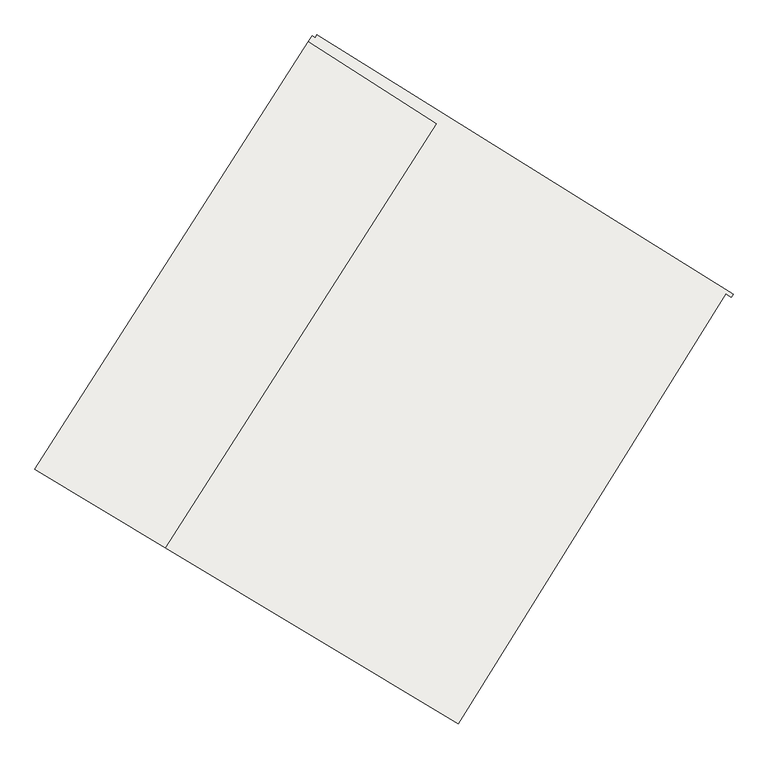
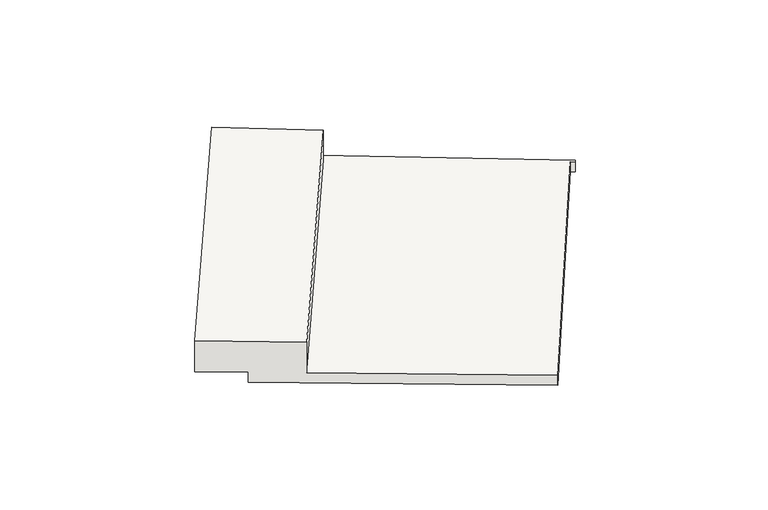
"""IFC4 building model written with IfcOpenShell, lengths in millimetres: slab geometry, Non-Monolitic_Landing."""

import ifcopenshell
import ifcopenshell.guid

model = None  # the IFC model being written
_history = None  # IfcOwnerHistory: only IFC2X3 demands one
_inside = {}  # id of a spatial element -> (the spatial element, [elements in it])
_under = {}  # id of a project, library or spatial element -> (it, [spatial elements below it])
_declared = {}  # id of a project -> (the project, [libraries it declares])
_typed = {}  # id of a type object -> (the type object, [elements of that type])
_made_of = {}  # id of a material, layer set ... -> (it, [elements and type objects made of it])


def new_model(schema):
    """Start an empty IFC model of exactly this schema.

    Asked for "IFC4X3", IfcOpenShell would pick the latest addendum, in which some entities
    have other attributes; the version numbers below select the first issue.
    IFC2X3 requires an IfcOwnerHistory on every rooted entity: one is made here for all.
    """
    global model, _history
    if schema == "IFC4X3":
        model = ifcopenshell.file(schema_version=(4, 3, 0, 0))
    else:
        model = ifcopenshell.file(schema=schema)
    _inside.clear()
    _under.clear()
    _declared.clear()
    _typed.clear()
    _made_of.clear()
    _history = None
    if model.schema == "IFC2X3":
        org = make("IfcOrganization", Name="unknown")
        user = make(
            "IfcPersonAndOrganization",
            ThePerson=make("IfcPerson", FamilyName="unknown"),
            TheOrganization=org,
        )
        app = make(
            "IfcApplication",
            ApplicationDeveloper=org,
            Version="unknown",
            ApplicationFullName="unknown",
            ApplicationIdentifier="unknown",
        )
        _history = make(
            "IfcOwnerHistory",
            OwningUser=user,
            OwningApplication=app,
            ChangeAction="ADDED",
            CreationDate=0,
        )
    return model


def make(cls, **values):
    """One entity of the class cls with the attributes given. An attribute that is None is left unset."""
    return model.create_entity(
        cls, **{name: value for name, value in values.items() if value is not None}
    )


def rooted(cls, **values):
    """An entity with a GlobalId (a new one), such as an element, a storey or a relation."""
    return make(cls, GlobalId=ifcopenshell.guid.new(), OwnerHistory=_history, **values)


def si_unit(unit_type, name, prefix=None):
    """IfcSIUnit, for example si_unit("LENGTHUNIT", "METRE", prefix="MILLI")."""
    return make("IfcSIUnit", UnitType=unit_type, Prefix=prefix, Name=name)


def assignment(units):
    """IfcUnitAssignment: the units of a project."""
    return None if units is None else make("IfcUnitAssignment", Units=units)


def point(xyz):
    """IfcCartesianPoint."""
    return None if xyz is None else make("IfcCartesianPoint", Coordinates=xyz)


def direction(xyz):
    """IfcDirection."""
    return None if xyz is None else make("IfcDirection", DirectionRatios=xyz)


def frame(location, z_axis=None, x_axis=None):
    """IfcAxis2Placement3D, a coordinate frame: its origin and axes. An axis left out is left unset."""
    return make(
        "IfcAxis2Placement3D",
        Location=point(location),
        Axis=direction(z_axis),
        RefDirection=direction(x_axis),
    )


def origin():
    """The frame at (0, 0, 0) with its axes left unset."""
    return frame((0.0, 0.0, 0.0))


def place(relative_to, where):
    """IfcLocalPlacement: puts the frame where relative to a parent placement (None: the world)."""
    return make(
        "IfcLocalPlacement", PlacementRelTo=relative_to, RelativePlacement=where
    )


def context(
    kind, dimensions, precision=None, world=None, true_north=None, identifier=None
):
    """IfcGeometricRepresentationContext, for example the 3D "Model" context."""
    return make(
        "IfcGeometricRepresentationContext",
        ContextIdentifier=identifier,
        ContextType=kind,
        CoordinateSpaceDimension=dimensions,
        Precision=precision,
        WorldCoordinateSystem=world,
        TrueNorth=true_north,
    )


def project(units=None, contexts=None):
    """IfcProject with its units and contexts."""
    return rooted(
        "IfcProject",
        Name="project",
        RepresentationContexts=contexts,
        UnitsInContext=assignment(units),
    )


def spatial(cls, under=None, at=None, **own):
    """A site, building, storey or space (cls), placed at a placement, below another one or the project."""
    s = rooted(cls, ObjectPlacement=at, **own)
    if under is not None:
        _under.setdefault(under.id(), (under, []))[1].append(s)
    return s


def faces_of(points, faces, orient=None, outer=None):
    """IfcFace entities. A face is a list of loops; a loop is a list of indices into points, from 0.

    orient and outer hold one flag for each loop. By default every Orientation is true, the
    first loop of a face is its IfcFaceOuterBound and the others are IfcFaceBound.
    """
    made = []
    for i, loops in enumerate(faces):
        bounds = []
        for j, loop in enumerate(loops):
            is_outer = j == 0 if outer is None else outer[i][j]
            bounds.append(
                make(
                    "IfcFaceOuterBound" if is_outer else "IfcFaceBound",
                    Bound=make("IfcPolyLoop", Polygon=[points[k] for k in loop]),
                    Orientation=True if orient is None else orient[i][j],
                )
            )
        made.append(make("IfcFace", Bounds=bounds))
    return made


def faceted_brep(points, faces, orient=None, outer=None, voids=None):
    """IfcFacetedBrep: a solid bounded by flat faces; with voids (closed shells), ...WithVoids."""
    shared = [point(p) for p in points]
    hull = make("IfcClosedShell", CfsFaces=faces_of(shared, faces, orient, outer))
    if voids is None:
        return make("IfcFacetedBrep", Outer=hull)
    return make(
        "IfcFacetedBrepWithVoids",
        Outer=hull,
        Voids=[
            make(cls, CfsFaces=faces_of(shared, fs, o, b)) for cls, fs, o, b in voids
        ],
    )


def shape(context_of_items, identifier, shape_type, items):
    """IfcShapeRepresentation: the items that make up one representation, for example the "Body"."""
    return make(
        "IfcShapeRepresentation",
        ContextOfItems=context_of_items,
        RepresentationIdentifier=identifier,
        RepresentationType=shape_type,
        Items=items,
    )


def source(mapping_origin, context_of_items, identifier, shape_type, items):
    """IfcRepresentationMap: a shape defined once, which mapped items show again and again."""
    return make(
        "IfcRepresentationMap",
        MappingOrigin=mapping_origin,
        MappedRepresentation=shape(context_of_items, identifier, shape_type, items),
    )


def transform(
    local_origin,
    x_axis=None,
    y_axis=None,
    z_axis=None,
    scale=None,
    scale2=None,
    scale3=None,
    uniform=True,
):
    """IfcCartesianTransformationOperator3D, or its non-uniform kind. x_axis, y_axis, z_axis: its Axis1, 2, 3."""
    if uniform:
        return make(
            "IfcCartesianTransformationOperator3D",
            Axis1=direction(x_axis),
            Axis2=direction(y_axis),
            LocalOrigin=point(local_origin),
            Scale=scale,
            Axis3=direction(z_axis),
        )
    return make(
        "IfcCartesianTransformationOperator3DnonUniform",
        Axis1=direction(x_axis),
        Axis2=direction(y_axis),
        LocalOrigin=point(local_origin),
        Scale=scale,
        Axis3=direction(z_axis),
        Scale2=scale2,
        Scale3=scale3,
    )


def mapped(mapping_source, mapping_target):
    """IfcMappedItem: shows the shape of a source again, moved by a transform."""
    return make(
        "IfcMappedItem", MappingSource=mapping_source, MappingTarget=mapping_target
    )


def made_of(thing, what):
    """Note that an element or type object is made of a material, layer set ...; save() writes the relation."""
    if what is not None:
        _made_of.setdefault(what.id(), (what, []))[1].append(thing)
    return thing


def element(
    cls,
    number,
    at=None,
    inside=None,
    cuts=None,
    type_object=None,
    material=None,
    context=None,
    identifier="Body",
    shape_type=None,
    held_by="IfcProductDefinitionShape",
    body=None,
    shapes=None,
    **own,
):
    """One element of the class cls, such as IfcWall. Its Tag is "e" and its number.

    at: its placement. inside: the storey or other place that contains it. cuts: it is an
    opening in that element (IfcRelVoidsElement). A single representation is given by context,
    identifier, shape_type and body (its items); several are given by shapes. held_by: the class
    of the entity that holds the representations. save() writes the other relations.
    """
    e = rooted(cls, Tag="e%d" % number, ObjectPlacement=at, **own)
    if body is not None:
        shapes = [shape(context, identifier, shape_type, body)]
    if shapes is not None:
        e.Representation = make(held_by, Representations=shapes)
    if inside is not None:
        _inside.setdefault(inside.id(), (inside, []))[1].append(e)
    if cuts is not None:
        rooted(
            "IfcRelVoidsElement", RelatingBuildingElement=cuts, RelatedOpeningElement=e
        )
    if type_object is not None:
        _typed.setdefault(type_object.id(), (type_object, []))[1].append(e)
    return made_of(e, material)


def aggregate(whole, parts):
    """IfcRelAggregates: a whole, such as a stair, and the parts it consists of."""
    return rooted("IfcRelAggregates", RelatingObject=whole, RelatedObjects=parts)


def save(model, path):
    """Write the relations noted so far, then the file.

    IfcRelAggregates (storeys below a building ...), IfcRelContainedInSpatialStructure (elements
    in a storey), IfcRelDefinesByType, IfcRelAssociatesMaterial and IfcRelDeclares: one each for
    every whole, place, type object, material and project.
    """
    for whole, parts in _under.values():
        aggregate(whole, parts)
    for where, things in _inside.values():
        rooted(
            "IfcRelContainedInSpatialStructure",
            RelatedElements=things,
            RelatingStructure=where,
        )
    for kind, things in _typed.values():
        rooted("IfcRelDefinesByType", RelatedObjects=things, RelatingType=kind)
    for what, things in _made_of.values():
        rooted("IfcRelAssociatesMaterial", RelatedObjects=things, RelatingMaterial=what)
    for by, libraries in _declared.values():
        rooted("IfcRelDeclares", RelatingContext=by, RelatedDefinitions=libraries)
    model.write(path)


def slab_3882e8d7(model_context):
    return source(origin(), model_context, "Body", "Brep", [
        faceted_brep([(17839.2596557, 8059.3911799, -166.6666667), (17855.0312966, 8049.5658373, -166.6666667), (17860.3189226, 8058.0535349, -166.6666667), (16629.6027602, 8824.7592983, -166.6666667), (16624.3151342, 8816.2716006, -166.6666667), (16615.3653295, 8821.8471079, -166.6666667), (16604.1030194, 8804.2328548, -166.6666667), (16785.2418348, 8688.4151984, -166.6666667), (16983.2307726, 8561.8238065, -166.6666667), (16181.9475178, 7308.6167904, -166.6666667), (17047.5371173, 6788.5180879, -166.6666667), (17855.0312966, 8049.5658373, -216.6666667), (17839.2596557, 8059.3911799, -216.6666667), (17047.5371173, 6788.5180879, -216.6666667), (15980.4351956, 7429.6976091, -216.6666667), (16785.2418348, 8688.4151984, -216.6666667), (16604.1030194, 8804.2328548, -216.6666667), (16615.3653295, 8821.8471079, -216.6666667), (16624.3151342, 8816.2716006, -216.6666667), (16629.6027602, 8824.7592983, -216.6666667), (17860.3189226, 8058.0535349, -216.6666667), (16181.9475178, 7308.6167904, -16.6666667), (15796.0728583, 7540.4736773, -16.6666667), (15796.0728583, 7540.4736773, -166.6666667), (15980.4351956, 7429.6976091, -166.6666667), (16983.2307726, 8561.8238065, -16.6666667), (16604.1030194, 8804.2328548, -166.6666667), (16604.1030194, 8804.2328548, -16.6666667)], [[[0, 1, 2, 3, 4, 5, 6, 7, 8, 9, 10]], [[11, 12, 13, 14, 15, 16, 17, 18, 19, 20]], [[0, 10, 13, 12]], [[14, 13, 10, 9, 21, 22, 23, 24]], [[25, 8, 7, 26, 27]], [[21, 9, 8, 25]], [[22, 21, 25, 27]], [[1, 0, 12, 11]], [[2, 1, 11, 20]], [[3, 2, 20, 19]], [[4, 3, 19, 18]], [[5, 4, 18, 17]], [[6, 5, 17, 16]], [[7, 6, 16, 15]], [[15, 14, 24, 7]], [[23, 22, 27, 26]], [[23, 26, 7, 24]]]),
    ])


if __name__ == "__main__":
    model = new_model("IFC4")
    model_context = context("Model", 3, world=origin())
    ifc_project = project(units=[si_unit("LENGTHUNIT", "METRE", prefix="MILLI")], contexts=[model_context])
    site = spatial("IfcSite", under=ifc_project)
    building = spatial("IfcBuilding", under=site)
    placement = place(None, origin())
    slab_shape = slab_3882e8d7(model_context)
    element("IfcSlab", 1, ObjectType="Non-Monolitic_Landing", at=placement, inside=building, context=model_context, shape_type="MappedRepresentation", body=[
        mapped(slab_shape, transform((0.0, 0.0, 0.0), x_axis=(1.0, 0.0, 0.0), y_axis=(0.0, 1.0, 0.0), z_axis=(0.0, 0.0, 1.0))),
    ])
    save(model, "model.ifc")
